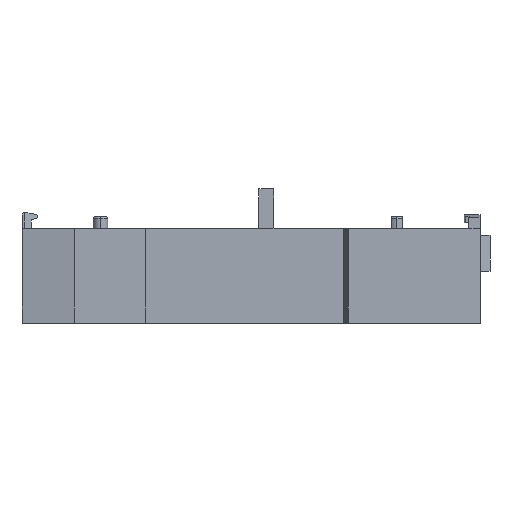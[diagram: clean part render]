
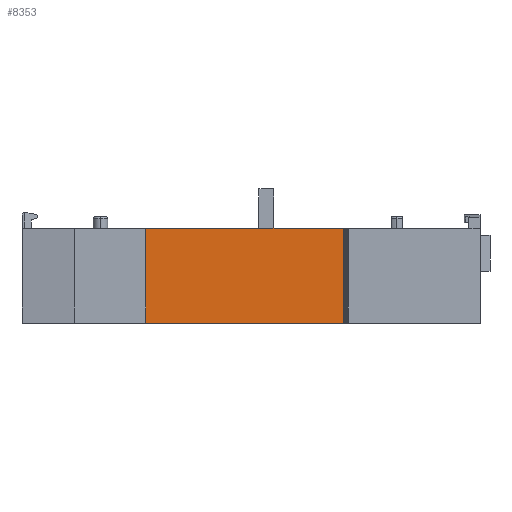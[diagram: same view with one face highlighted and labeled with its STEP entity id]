
A CAD part, left-side view. The second image highlights one B-rep face of the part: STEP entity #8353.
In plain terms, the highlighted planar face has unit normal (-1, 0, 0).
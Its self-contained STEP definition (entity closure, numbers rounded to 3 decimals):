
#109 = DIRECTION ( 'NONE',  ( 0., -1., 0. ) ) ;
#703 = ORIENTED_EDGE ( 'NONE', *, *, #4599, .F. ) ;
#1666 = ORIENTED_EDGE ( 'NONE', *, *, #9443, .T. ) ;
#1734 = EDGE_CURVE ( 'NONE', #10287, #11837, #5394, .T. ) ;
#1848 = ORIENTED_EDGE ( 'NONE', *, *, #11052, .F. ) ;
#2206 = DIRECTION ( 'NONE',  ( 0., 0., 1. ) ) ;
#2611 = VECTOR ( 'NONE', #3237, 1000. ) ;
#2967 = VECTOR ( 'NONE', #11686, 1000. ) ;
#3225 = EDGE_LOOP ( 'NONE', ( #1666, #1848, #703, #3320 ) ) ;
#3237 = DIRECTION ( 'NONE',  ( 0., -1., 0. ) ) ;
#3320 = ORIENTED_EDGE ( 'NONE', *, *, #1734, .T. ) ;
#3371 = CARTESIAN_POINT ( 'NONE',  ( 4.7, 20., -9. ) ) ;
#4097 = DIRECTION ( 'NONE',  ( -1., 0., 0. ) ) ;
#4599 = EDGE_CURVE ( 'NONE', #10287, #5764, #5753, .T. ) ;
#4889 = VECTOR ( 'NONE', #109, 1000. ) ;
#5230 = LINE ( 'NONE', #7413, #4889 ) ;
#5334 = CARTESIAN_POINT ( 'NONE',  ( 4.7, 20., -9. ) ) ;
#5394 = LINE ( 'NONE', #5334, #2611 ) ;
#5731 = VECTOR ( 'NONE', #2206, 1000. ) ;
#5753 = LINE ( 'NONE', #3371, #2967 ) ;
#5764 = VERTEX_POINT ( 'NONE', #5951 ) ;
#5951 = CARTESIAN_POINT ( 'NONE',  ( 4.7, 20., 9. ) ) ;
#6406 = FACE_OUTER_BOUND ( 'NONE', #3225, .T. ) ;
#6671 = CARTESIAN_POINT ( 'NONE',  ( 4.7, -17.5, -9. ) ) ;
#7413 = CARTESIAN_POINT ( 'NONE',  ( 4.7, 20., 9. ) ) ;
#8353 = ADVANCED_FACE ( 'NONE', ( #6406 ), #10315, .T. ) ;
#8874 = VERTEX_POINT ( 'NONE', #12353 ) ;
#9443 = EDGE_CURVE ( 'NONE', #11837, #8874, #11244, .T. ) ;
#10287 = VERTEX_POINT ( 'NONE', #12179 ) ;
#10315 = PLANE ( 'NONE',  #11007 ) ;
#11007 = AXIS2_PLACEMENT_3D ( 'NONE', #11311, #4097, #11357 ) ;
#11052 = EDGE_CURVE ( 'NONE', #5764, #8874, #5230, .T. ) ;
#11244 = LINE ( 'NONE', #11535, #5731 ) ;
#11311 = CARTESIAN_POINT ( 'NONE',  ( 4.7, 20., -9. ) ) ;
#11357 = DIRECTION ( 'NONE',  ( 0., -1., 0. ) ) ;
#11535 = CARTESIAN_POINT ( 'NONE',  ( 4.7, -17.5, -9. ) ) ;
#11686 = DIRECTION ( 'NONE',  ( 0., 0., 1. ) ) ;
#11837 = VERTEX_POINT ( 'NONE', #6671 ) ;
#12179 = CARTESIAN_POINT ( 'NONE',  ( 4.7, 20., -9. ) ) ;
#12353 = CARTESIAN_POINT ( 'NONE',  ( 4.7, -17.5, 9. ) ) ;
